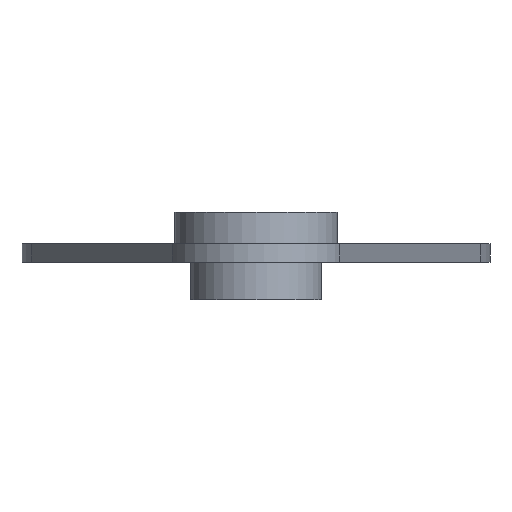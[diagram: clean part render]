
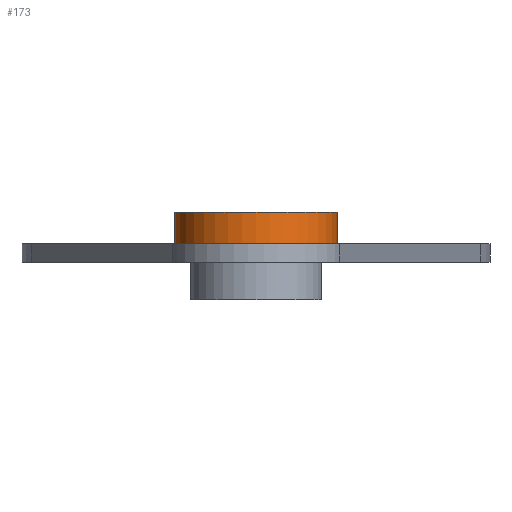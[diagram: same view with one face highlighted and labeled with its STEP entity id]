
A CAD part, front view. The second image highlights one B-rep face of the part: STEP entity #173.
In plain terms, the highlighted cylindrical face has radius 13 mm (diameter 26 mm), a partial arc.
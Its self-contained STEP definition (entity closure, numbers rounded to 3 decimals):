
#63 = CIRCLE ( 'NONE', #1037, 13. ) ;
#99 = CIRCLE ( 'NONE', #875, 13. ) ;
#101 = EDGE_CURVE ( 'NONE', #795, #796, #99, .T. ) ;
#108 = EDGE_CURVE ( 'NONE', #637, #796, #439, .T. ) ;
#122 = EDGE_CURVE ( 'NONE', #816, #637, #63, .T. ) ;
#159 = EDGE_CURVE ( 'NONE', #816, #795, #421, .T. ) ;
#173 = ADVANCED_FACE ( 'NONE', ( #878 ), #877, .T. ) ;
#187 = ORIENTED_EDGE ( 'NONE', *, *, #122, .T. ) ;
#226 = ORIENTED_EDGE ( 'NONE', *, *, #101, .F. ) ;
#234 = ORIENTED_EDGE ( 'NONE', *, *, #159, .F. ) ;
#319 = CARTESIAN_POINT ( 'NONE',  ( -13., -85., 3. ) ) ;
#329 = CARTESIAN_POINT ( 'NONE',  ( 13., -85., 8. ) ) ;
#330 = CARTESIAN_POINT ( 'NONE',  ( -13., -85., 8. ) ) ;
#348 = CARTESIAN_POINT ( 'NONE',  ( 13., -85., 3. ) ) ;
#373 = DIRECTION ( 'NONE',  ( 1., 0., 0. ) ) ;
#374 = DIRECTION ( 'NONE',  ( 0., 0., 1. ) ) ;
#375 = CARTESIAN_POINT ( 'NONE',  ( 0., -85., 16.665 ) ) ;
#421 = LINE ( 'NONE', #422, #885 ) ;
#422 = CARTESIAN_POINT ( 'NONE',  ( -13., -85., 16.665 ) ) ;
#423 = DIRECTION ( 'NONE',  ( 0., 0., 1. ) ) ;
#432 = DIRECTION ( 'NONE',  ( 0., 0., 1. ) ) ;
#436 = CARTESIAN_POINT ( 'NONE',  ( 13., -85., 16.665 ) ) ;
#439 = LINE ( 'NONE', #436, #1034 ) ;
#446 = CARTESIAN_POINT ( 'NONE',  ( 0., -85., 8. ) ) ;
#448 = DIRECTION ( 'NONE',  ( 0., 0., 1. ) ) ;
#449 = DIRECTION ( 'NONE',  ( 1., 0., 0. ) ) ;
#497 = CARTESIAN_POINT ( 'NONE',  ( 0., -85., 3. ) ) ;
#498 = DIRECTION ( 'NONE',  ( 0., 0., 1. ) ) ;
#499 = DIRECTION ( 'NONE',  ( 1., 0., 0. ) ) ;
#635 = ORIENTED_EDGE ( 'NONE', *, *, #108, .T. ) ;
#637 = VERTEX_POINT ( 'NONE', #348 ) ;
#690 = EDGE_LOOP ( 'NONE', ( #234, #187, #635, #226 ) ) ;
#795 = VERTEX_POINT ( 'NONE', #330 ) ;
#796 = VERTEX_POINT ( 'NONE', #329 ) ;
#816 = VERTEX_POINT ( 'NONE', #319 ) ;
#875 = AXIS2_PLACEMENT_3D ( 'NONE', #446, #448, #449 ) ;
#877 = CYLINDRICAL_SURFACE ( 'NONE', #906, 13. ) ;
#878 = FACE_OUTER_BOUND ( 'NONE', #690, .T. ) ;
#885 = VECTOR ( 'NONE', #423, 1000. ) ;
#906 = AXIS2_PLACEMENT_3D ( 'NONE', #375, #374, #373 ) ;
#1034 = VECTOR ( 'NONE', #432, 1000. ) ;
#1037 = AXIS2_PLACEMENT_3D ( 'NONE', #497, #498, #499 ) ;
